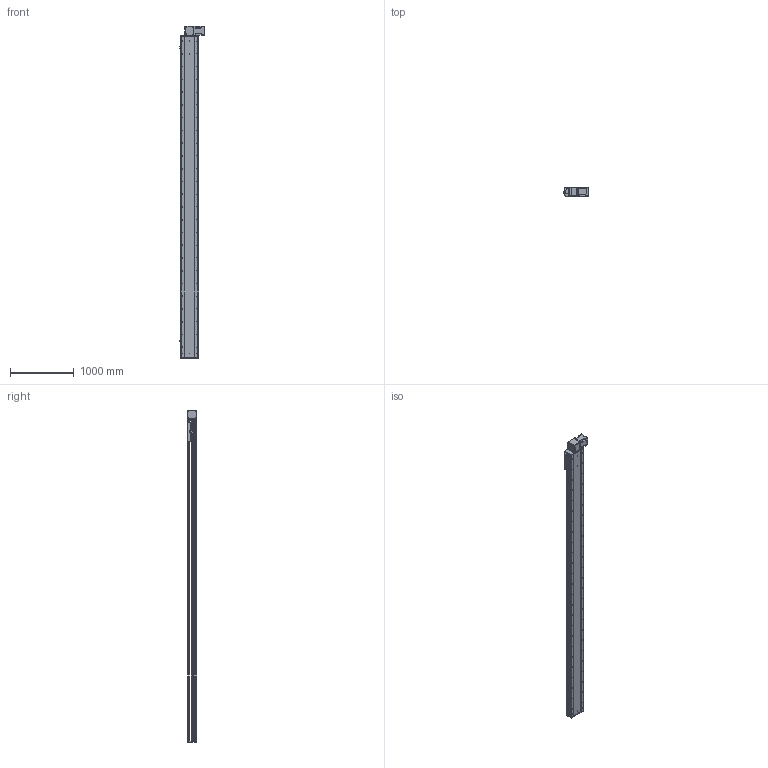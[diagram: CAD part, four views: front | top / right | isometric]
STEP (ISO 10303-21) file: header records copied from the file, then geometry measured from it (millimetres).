
FILE_DESCRIPTION (( 'STEP AP214' ), '1' );
FILE_NAME ('RTB28S-XX-4600-BL-M100-XX-C4.STEP', '2025-12-22T02:47:28', ( '' ), ( '' ), 'SwSTEP 2.0', 'SolidWorks 2018', '' );
FILE_SCHEMA (( 'AUTOMOTIVE_DESIGN' ));
Length unit declared in the file: millimetre
Products named in the file (4): RTB28S-XX-4600-BL-M100-XX-C4; RTB28S-GY-008^RTB28S-XX-XX-BL-M100-XX-C4; RTB28S-GY-004^RTB28S-XX-XX-BL-M100-XX-C4; RTB28S-GY-011^RTB28S-XX-XX-BL-M100-XX-C4
Assembly tree (3 placements, depth 2):
  RTB28S-XX-4600-BL-M100-XX-C4
    RTB28S-GY-011^RTB28S-XX-XX-BL-M100-XX-C4
    RTB28S-GY-004^RTB28S-XX-XX-BL-M100-XX-C4
    RTB28S-GY-008^RTB28S-XX-XX-BL-M100-XX-C4
Bounding box: 380.7 x 145 x 5207 mm (x, y, z)
Volume: 86305289.6 mm3; surface area: 7977825.5 mm2
Topology: 3 solids, 4 shells, 968 faces, 2628 edges, 1688 vertices
Faces by surface type: cylinder 503, plane 381, cone 80, torus 4
Entity records: 38261 total; most frequent: CARTESIAN_POINT 7702, DIRECTION 5610, ORIENTED_EDGE 5192, EDGE_CURVE 2596, AXIS2_PLACEMENT_3D 2100, VERTEX_POINT 1688, LINE 1410, VECTOR 1410
